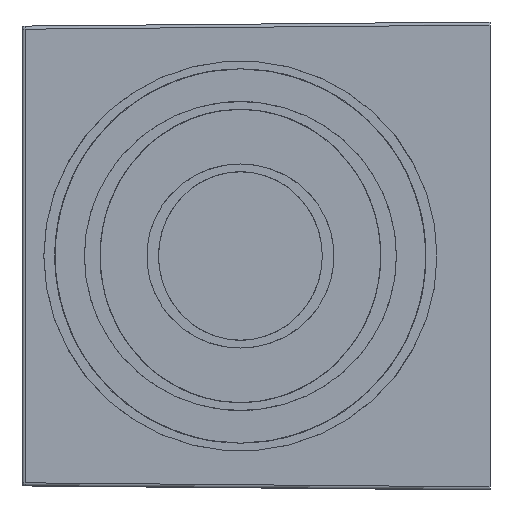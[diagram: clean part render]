
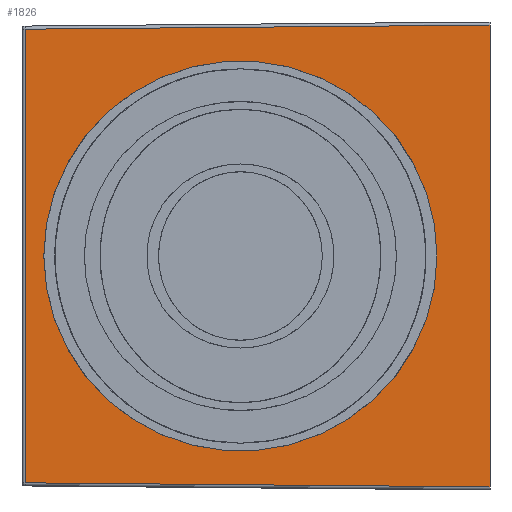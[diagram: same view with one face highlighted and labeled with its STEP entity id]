
A CAD part, left-side view. The second image highlights one B-rep face of the part: STEP entity #1826.
In plain terms, the highlighted planar face has unit normal (-1, 0.009, 0).
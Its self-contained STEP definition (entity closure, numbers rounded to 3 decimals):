
#59=ELLIPSE('',#1956,12.6,12.5);
#62=ELLIPSE('',#1988,12.6,12.5);
#145=LINE('',#2948,#287);
#146=LINE('',#2953,#288);
#147=LINE('',#2957,#289);
#148=LINE('',#2958,#290);
#287=VECTOR('',#2334,29.804);
#288=VECTOR('',#2341,29.08);
#289=VECTOR('',#2346,29.6);
#290=VECTOR('',#2347,29.804);
#380=FACE_BOUND('',#589,.T.);
#465=FACE_OUTER_BOUND('',#588,.T.);
#588=EDGE_LOOP('',(#1309,#1310,#1311,#1312));
#589=EDGE_LOOP('',(#1313,#1314));
#796=VERTEX_POINT('',#2869);
#797=VERTEX_POINT('',#2871);
#822=VERTEX_POINT('',#2944);
#823=VERTEX_POINT('',#2946);
#824=VERTEX_POINT('',#2952);
#825=VERTEX_POINT('',#2956);
#968=EDGE_CURVE('',#797,#796,#59,.T.);
#1006=EDGE_CURVE('',#822,#823,#145,.T.);
#1008=EDGE_CURVE('',#824,#822,#146,.T.);
#1010=EDGE_CURVE('',#823,#825,#147,.T.);
#1011=EDGE_CURVE('',#824,#825,#148,.T.);
#1012=EDGE_CURVE('',#796,#797,#62,.T.);
#1309=ORIENTED_EDGE('',*,*,#1008,.T.);
#1310=ORIENTED_EDGE('',*,*,#1006,.T.);
#1311=ORIENTED_EDGE('',*,*,#1010,.T.);
#1312=ORIENTED_EDGE('',*,*,#1011,.F.);
#1313=ORIENTED_EDGE('',*,*,#1012,.T.);
#1314=ORIENTED_EDGE('',*,*,#968,.T.);
#1648=PLANE('',#1987);
#1826=ADVANCED_FACE('',(#465,#380),#1648,.T.);
#1956=AXIS2_PLACEMENT_3D('',#2872,#2257,#2258);
#1987=AXIS2_PLACEMENT_3D('',#2955,#2344,#2345);
#1988=AXIS2_PLACEMENT_3D('',#2959,#2348,#2349);
#2257=DIRECTION('center_axis',(1.,-0.009,0.));
#2258=DIRECTION('ref_axis',(0.009,1.,0.));
#2334=DIRECTION('',(-0.009,-1.,-0.009));
#2341=DIRECTION('',(0.,0.,-1.));
#2344=DIRECTION('center_axis',(-1.,0.009,0.));
#2345=DIRECTION('ref_axis',(0.,0.,-1.));
#2346=DIRECTION('',(0.,0.,1.));
#2347=DIRECTION('',(-0.009,-1.,0.009));
#2348=DIRECTION('center_axis',(1.,-0.009,0.));
#2349=DIRECTION('ref_axis',(0.009,1.,0.));
#2869=CARTESIAN_POINT('',(-26.27,-26.6,0.));
#2871=CARTESIAN_POINT('',(-26.05,-1.4,0.));
#2872=CARTESIAN_POINT('Origin',(-26.16,-14.,0.));
#2944=CARTESIAN_POINT('',(-26.04,-0.198,-14.54));
#2946=CARTESIAN_POINT('',(-26.3,-30.,-14.8));
#2948=CARTESIAN_POINT('',(-26.04,-0.198,-14.54));
#2952=CARTESIAN_POINT('',(-26.04,-0.198,14.54));
#2953=CARTESIAN_POINT('',(-26.04,-0.198,14.54));
#2955=CARTESIAN_POINT('Origin',(-26.3,-30.,-16.811));
#2956=CARTESIAN_POINT('',(-26.3,-30.,14.8));
#2957=CARTESIAN_POINT('',(-26.3,-30.,-14.8));
#2958=CARTESIAN_POINT('',(-26.04,-0.198,14.54));
#2959=CARTESIAN_POINT('Origin',(-26.16,-14.,0.));
